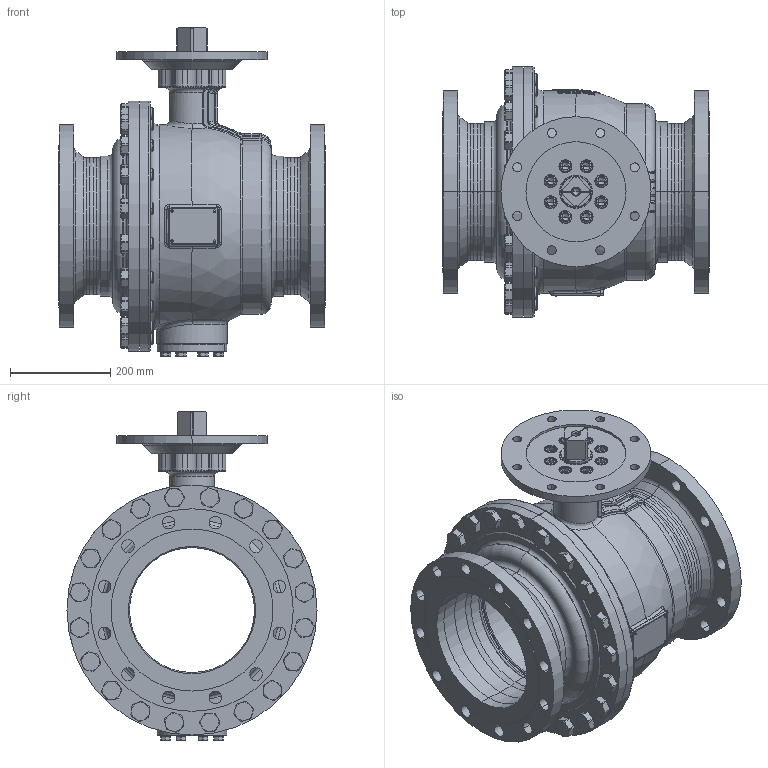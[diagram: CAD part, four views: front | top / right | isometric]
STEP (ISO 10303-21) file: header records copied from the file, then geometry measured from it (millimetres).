
FILE_DESCRIPTION((''),'2;1');
FILE_NAME('KHI-F_250_CL150-F25--_SW0001','2026-02-05T14:36:30',('fischerkl'),('KLINGER'),'CREO PARAMETRIC BY PTC INC, 2023014','CREO PARAMETRIC BY PTC INC, 2023014','');
FILE_SCHEMA(('CONFIG_CONTROL_DESIGN'));
Products named in the file (1): KHI-F_250_CL150-F25--_SW0001
Bounding box: 533 x 500 x 657.8 mm (x, y, z)
Volume: 23305222.4 mm3; surface area: 3483391.6 mm2
Topology: 1 solids, 4 shells, 3398 faces, 8637 edges, 5388 vertices
Faces by surface type: plane 1727, cylinder 806, cone 416, torus 310, bspline 97, sphere 42
Entity records: 139500 total; most frequent: CARTESIAN_POINT 58428, ORIENTED_EDGE 17198, DIRECTION 16700, EDGE_CURVE 8599, AXIS2_PLACEMENT_3D 6341, VERTEX_POINT 5388, VECTOR 4018, LINE 4018
